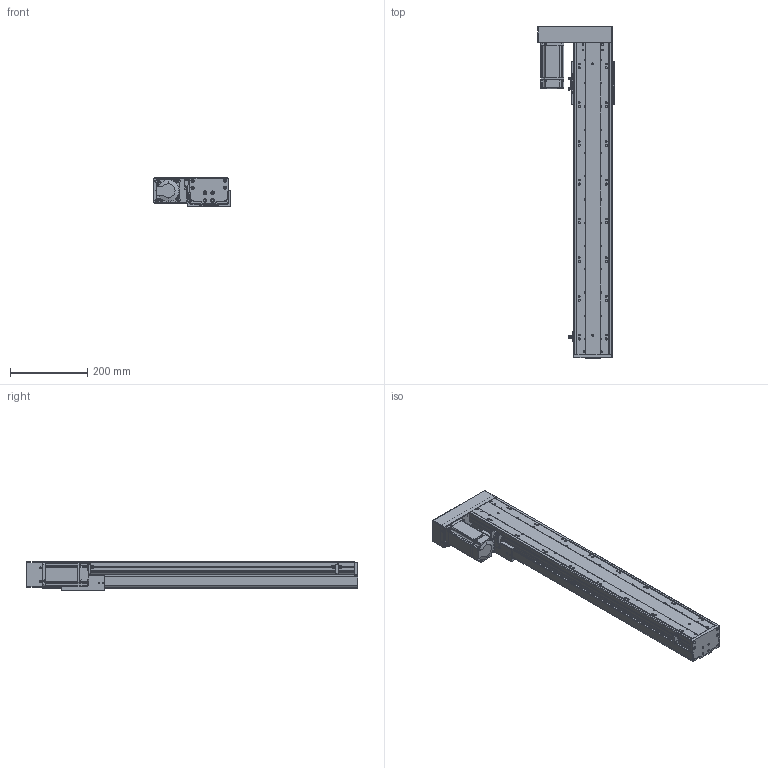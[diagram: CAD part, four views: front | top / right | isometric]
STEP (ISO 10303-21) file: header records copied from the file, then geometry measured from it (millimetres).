
FILE_DESCRIPTION (( 'STEP AP203' ), '1' );
FILE_NAME ('RY100FBS-L1610-300-LK(15双轨）.SLDASM_600.step', '2021-02-23T01:49:24', ( '盈信电脑' ), ( '东莞市道滘镇水果街19号' ), 'SwSTEP 2.0', 'SolidWorks 2012', '' );
FILE_SCHEMA (( 'CONFIG_CONTROL_DESIGN' ));
Length unit declared in the file: millimetre
Products named in the file (14): RY100FBS-酘衵殏萇儂啣; RY100FBS-L1610-300-LK(15双轨）.SLDASM_600; RY100FBS-酘衵殏萇儂欶; 侂狟400W侜督萇儂; RY100FBS-后盖板(15双轨）; RY100FBS-嫖萇覜茼え; 15; RY100FBS-铝滑块（16丝杆）; 滅袉蝶18-24; 滅袉蝶18-15; 覜茼ん672; RY100FBS-转折支撑座（15双轨）; RY100FBS-300蛌殏奻裔啣-LK_600; RY100FBS-300蛌殏菁釱-LK_600
Assembly tree (15 placements, depth 3):
  RY100FBS-L1610-300-LK(15双轨）.SLDASM_600
    RY100FBS-300蛌殏菁釱-LK_600
    RY100FBS-300蛌殏奻裔啣-LK_600
    RY100FBS-转折支撑座（15双轨）
    滅袉蝶18-24
    滅袉蝶18-15
    RY100FBS-铝滑块（16丝杆）
    覜茼ん672  x3
    RY100FBS-嫖萇覜茼え
    侂狟400W侜督萇儂
      15
    RY100FBS-后盖板(15双轨）
    RY100FBS-酘衵殏萇儂啣
    RY100FBS-酘衵殏萇儂欶
Bounding box: 198.75 x 857 x 74 mm (x, y, z)
Volume: 2397908.5 mm3; surface area: 875878.1 mm2
Topology: 14 solids, 14 shells, 1633 faces, 4628 edges, 3002 vertices
Faces by surface type: cylinder 785, plane 696, cone 126, bspline 26
Entity records: 51515 total; most frequent: CARTESIAN_POINT 10930, DIRECTION 8275, ORIENTED_EDGE 8132, EDGE_CURVE 4066, AXIS2_PLACEMENT_3D 2991, VERTEX_POINT 2682, LINE 2293, VECTOR 2293
